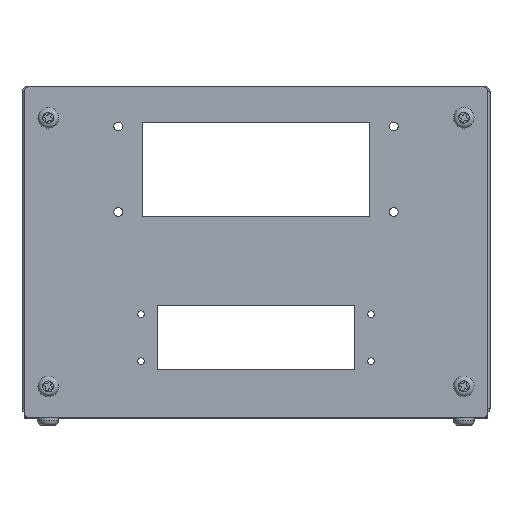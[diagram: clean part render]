
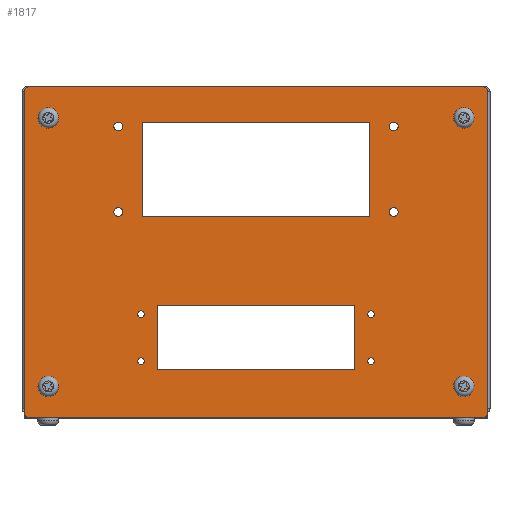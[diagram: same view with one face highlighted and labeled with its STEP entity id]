
A CAD part, top view. The second image highlights one B-rep face of the part: STEP entity #1817.
In plain terms, the highlighted planar face has unit normal (0, 0, 1).
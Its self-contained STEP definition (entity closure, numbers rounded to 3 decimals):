
#1170=FACE_BOUND('',#3671,.T.);
#1171=FACE_BOUND('',#3672,.T.);
#1172=FACE_BOUND('',#3673,.T.);
#1173=FACE_BOUND('',#3674,.T.);
#1174=FACE_BOUND('',#3675,.T.);
#1175=FACE_BOUND('',#3676,.T.);
#1176=FACE_BOUND('',#3677,.T.);
#1177=FACE_BOUND('',#3678,.T.);
#1178=FACE_BOUND('',#3679,.T.);
#1179=FACE_BOUND('',#3680,.T.);
#1180=FACE_BOUND('',#3681,.T.);
#1181=FACE_BOUND('',#3682,.T.);
#1182=FACE_BOUND('',#3683,.T.);
#1183=FACE_BOUND('',#3684,.T.);
#1184=FACE_BOUND('',#3685,.T.);
#1817=ADVANCED_FACE('',(#1170,#1171,#1172,#1173,#1174,#1175,#1176,#1177,
#1178,#1179,#1180,#1181,#1182,#1183,#1184),#2271,.F.);
#2271=PLANE('',#13586);
#3671=EDGE_LOOP('',(#6401));
#3672=EDGE_LOOP('',(#6402));
#3673=EDGE_LOOP('',(#6403));
#3674=EDGE_LOOP('',(#6404));
#3675=EDGE_LOOP('',(#6405,#6406,#6407,#6408,#6409,#6410,#6411,#6412));
#3676=EDGE_LOOP('',(#6413,#6414,#6415,#6416));
#3677=EDGE_LOOP('',(#6417));
#3678=EDGE_LOOP('',(#6418));
#3679=EDGE_LOOP('',(#6419));
#3680=EDGE_LOOP('',(#6420));
#3681=EDGE_LOOP('',(#6421));
#3682=EDGE_LOOP('',(#6422));
#3683=EDGE_LOOP('',(#6423));
#3684=EDGE_LOOP('',(#6424));
#3685=EDGE_LOOP('',(#6425,#6426,#6427,#6428));
#6401=ORIENTED_EDGE('',*,*,#9748,.T.);
#6402=ORIENTED_EDGE('',*,*,#9749,.F.);
#6403=ORIENTED_EDGE('',*,*,#9750,.F.);
#6404=ORIENTED_EDGE('',*,*,#9751,.T.);
#6405=ORIENTED_EDGE('',*,*,#9752,.T.);
#6406=ORIENTED_EDGE('',*,*,#9753,.T.);
#6407=ORIENTED_EDGE('',*,*,#9754,.T.);
#6408=ORIENTED_EDGE('',*,*,#9755,.T.);
#6409=ORIENTED_EDGE('',*,*,#9756,.T.);
#6410=ORIENTED_EDGE('',*,*,#9757,.T.);
#6411=ORIENTED_EDGE('',*,*,#9758,.T.);
#6412=ORIENTED_EDGE('',*,*,#9759,.T.);
#6413=ORIENTED_EDGE('',*,*,#9760,.F.);
#6414=ORIENTED_EDGE('',*,*,#9761,.F.);
#6415=ORIENTED_EDGE('',*,*,#9762,.F.);
#6416=ORIENTED_EDGE('',*,*,#9763,.F.);
#6417=ORIENTED_EDGE('',*,*,#9764,.T.);
#6418=ORIENTED_EDGE('',*,*,#9765,.T.);
#6419=ORIENTED_EDGE('',*,*,#9766,.T.);
#6420=ORIENTED_EDGE('',*,*,#9767,.F.);
#6421=ORIENTED_EDGE('',*,*,#9768,.F.);
#6422=ORIENTED_EDGE('',*,*,#9769,.T.);
#6423=ORIENTED_EDGE('',*,*,#9770,.F.);
#6424=ORIENTED_EDGE('',*,*,#9771,.F.);
#6425=ORIENTED_EDGE('',*,*,#9772,.T.);
#6426=ORIENTED_EDGE('',*,*,#9773,.T.);
#6427=ORIENTED_EDGE('',*,*,#9774,.T.);
#6428=ORIENTED_EDGE('',*,*,#9775,.T.);
#8187=VERTEX_POINT('',#21721);
#8188=VERTEX_POINT('',#21723);
#8189=VERTEX_POINT('',#21725);
#8190=VERTEX_POINT('',#21727);
#8191=VERTEX_POINT('',#21729);
#8192=VERTEX_POINT('',#21730);
#8193=VERTEX_POINT('',#21732);
#8194=VERTEX_POINT('',#21734);
#8195=VERTEX_POINT('',#21736);
#8196=VERTEX_POINT('',#21738);
#8197=VERTEX_POINT('',#21740);
#8198=VERTEX_POINT('',#21742);
#8199=VERTEX_POINT('',#21745);
#8200=VERTEX_POINT('',#21746);
#8201=VERTEX_POINT('',#21748);
#8202=VERTEX_POINT('',#21750);
#8203=VERTEX_POINT('',#21753);
#8204=VERTEX_POINT('',#21755);
#8205=VERTEX_POINT('',#21757);
#8206=VERTEX_POINT('',#21759);
#8207=VERTEX_POINT('',#21761);
#8208=VERTEX_POINT('',#21763);
#8209=VERTEX_POINT('',#21765);
#8210=VERTEX_POINT('',#21767);
#8211=VERTEX_POINT('',#21769);
#8212=VERTEX_POINT('',#21770);
#8213=VERTEX_POINT('',#21772);
#8214=VERTEX_POINT('',#21774);
#9748=EDGE_CURVE('',#8187,#8187,#12386,.T.);
#9749=EDGE_CURVE('',#8188,#8188,#12387,.T.);
#9750=EDGE_CURVE('',#8189,#8189,#12388,.T.);
#9751=EDGE_CURVE('',#8190,#8190,#12389,.T.);
#9752=EDGE_CURVE('',#8191,#8192,#10752,.T.);
#9753=EDGE_CURVE('',#8192,#8193,#12390,.T.);
#9754=EDGE_CURVE('',#8193,#8194,#10753,.T.);
#9755=EDGE_CURVE('',#8194,#8195,#12391,.T.);
#9756=EDGE_CURVE('',#8195,#8196,#10754,.T.);
#9757=EDGE_CURVE('',#8196,#8197,#12392,.T.);
#9758=EDGE_CURVE('',#8197,#8198,#10755,.T.);
#9759=EDGE_CURVE('',#8198,#8191,#12393,.T.);
#9760=EDGE_CURVE('',#8199,#8200,#10756,.T.);
#9761=EDGE_CURVE('',#8201,#8199,#10757,.T.);
#9762=EDGE_CURVE('',#8202,#8201,#10758,.T.);
#9763=EDGE_CURVE('',#8200,#8202,#10759,.T.);
#9764=EDGE_CURVE('',#8203,#8203,#12394,.T.);
#9765=EDGE_CURVE('',#8204,#8204,#12395,.T.);
#9766=EDGE_CURVE('',#8205,#8205,#12396,.T.);
#9767=EDGE_CURVE('',#8206,#8206,#12397,.T.);
#9768=EDGE_CURVE('',#8207,#8207,#12398,.T.);
#9769=EDGE_CURVE('',#8208,#8208,#12399,.T.);
#9770=EDGE_CURVE('',#8209,#8209,#12400,.T.);
#9771=EDGE_CURVE('',#8210,#8210,#12401,.T.);
#9772=EDGE_CURVE('',#8211,#8212,#10760,.T.);
#9773=EDGE_CURVE('',#8212,#8213,#10761,.T.);
#9774=EDGE_CURVE('',#8213,#8214,#10762,.T.);
#9775=EDGE_CURVE('',#8214,#8211,#10763,.T.);
#10752=LINE('',#21728,#11606);
#10753=LINE('',#21733,#11607);
#10754=LINE('',#21737,#11608);
#10755=LINE('',#21741,#11609);
#10756=LINE('',#21744,#11610);
#10757=LINE('',#21747,#11611);
#10758=LINE('',#21749,#11612);
#10759=LINE('',#21751,#11613);
#10760=LINE('',#21768,#11614);
#10761=LINE('',#21771,#11615);
#10762=LINE('',#21773,#11616);
#10763=LINE('',#21775,#11617);
#11606=VECTOR('',#16528,1.);
#11607=VECTOR('',#16531,1.);
#11608=VECTOR('',#16534,1.);
#11609=VECTOR('',#16537,1.);
#11610=VECTOR('',#16540,1.);
#11611=VECTOR('',#16541,1.);
#11612=VECTOR('',#16542,1.);
#11613=VECTOR('',#16543,1.);
#11614=VECTOR('',#16560,1.);
#11615=VECTOR('',#16561,1.);
#11616=VECTOR('',#16562,1.);
#11617=VECTOR('',#16563,1.);
#12386=CIRCLE('',#13570,1.25);
#12387=CIRCLE('',#13571,1.25);
#12388=CIRCLE('',#13572,1.25);
#12389=CIRCLE('',#13573,1.25);
#12390=CIRCLE('',#13574,2.);
#12391=CIRCLE('',#13575,2.);
#12392=CIRCLE('',#13576,2.);
#12393=CIRCLE('',#13577,2.);
#12394=CIRCLE('',#13578,2.5);
#12395=CIRCLE('',#13579,1.65);
#12396=CIRCLE('',#13580,1.65);
#12397=CIRCLE('',#13581,2.5);
#12398=CIRCLE('',#13582,2.5);
#12399=CIRCLE('',#13583,2.5);
#12400=CIRCLE('',#13584,1.65);
#12401=CIRCLE('',#13585,1.65);
#13570=AXIS2_PLACEMENT_3D('',#21720,#16520,#16521);
#13571=AXIS2_PLACEMENT_3D('',#21722,#16522,#16523);
#13572=AXIS2_PLACEMENT_3D('',#21724,#16524,#16525);
#13573=AXIS2_PLACEMENT_3D('',#21726,#16526,#16527);
#13574=AXIS2_PLACEMENT_3D('',#21731,#16529,#16530);
#13575=AXIS2_PLACEMENT_3D('',#21735,#16532,#16533);
#13576=AXIS2_PLACEMENT_3D('',#21739,#16535,#16536);
#13577=AXIS2_PLACEMENT_3D('',#21743,#16538,#16539);
#13578=AXIS2_PLACEMENT_3D('',#21752,#16544,#16545);
#13579=AXIS2_PLACEMENT_3D('',#21754,#16546,#16547);
#13580=AXIS2_PLACEMENT_3D('',#21756,#16548,#16549);
#13581=AXIS2_PLACEMENT_3D('',#21758,#16550,#16551);
#13582=AXIS2_PLACEMENT_3D('',#21760,#16552,#16553);
#13583=AXIS2_PLACEMENT_3D('',#21762,#16554,#16555);
#13584=AXIS2_PLACEMENT_3D('',#21764,#16556,#16557);
#13585=AXIS2_PLACEMENT_3D('',#21766,#16558,#16559);
#13586=AXIS2_PLACEMENT_3D('',#21776,#16564,#16565);
#16520=DIRECTION('',(0.,0.,-1.));
#16521=DIRECTION('',(1.,0.,0.));
#16522=DIRECTION('',(0.,0.,1.));
#16523=DIRECTION('',(1.,0.,0.));
#16524=DIRECTION('',(0.,0.,1.));
#16525=DIRECTION('',(-1.,0.,0.));
#16526=DIRECTION('',(0.,0.,-1.));
#16527=DIRECTION('',(-1.,0.,0.));
#16528=DIRECTION('',(1.,0.,0.));
#16529=DIRECTION('',(0.,0.,1.));
#16530=DIRECTION('',(-1.,0.,0.));
#16531=DIRECTION('',(0.,1.,0.));
#16532=DIRECTION('',(0.,0.,1.));
#16533=DIRECTION('',(-1.,0.,0.));
#16534=DIRECTION('',(-1.,0.,0.));
#16535=DIRECTION('',(0.,0.,1.));
#16536=DIRECTION('',(-1.,0.,0.));
#16537=DIRECTION('',(0.,-1.,0.));
#16538=DIRECTION('',(0.,0.,1.));
#16539=DIRECTION('',(-1.,0.,0.));
#16540=DIRECTION('',(1.,0.,0.));
#16541=DIRECTION('',(0.,-1.,0.));
#16542=DIRECTION('',(-1.,0.,0.));
#16543=DIRECTION('',(0.,1.,0.));
#16544=DIRECTION('',(0.,0.,-1.));
#16545=DIRECTION('',(-1.,0.,0.));
#16546=DIRECTION('',(0.,0.,-1.));
#16547=DIRECTION('',(-1.,0.,0.));
#16548=DIRECTION('',(0.,0.,-1.));
#16549=DIRECTION('',(-1.,0.,0.));
#16550=DIRECTION('',(0.,0.,1.));
#16551=DIRECTION('',(-1.,0.,0.));
#16552=DIRECTION('',(0.,0.,1.));
#16553=DIRECTION('',(1.,0.,0.));
#16554=DIRECTION('',(0.,0.,-1.));
#16555=DIRECTION('',(1.,0.,0.));
#16556=DIRECTION('',(0.,0.,1.));
#16557=DIRECTION('',(1.,0.,0.));
#16558=DIRECTION('',(0.,0.,1.));
#16559=DIRECTION('',(1.,0.,0.));
#16560=DIRECTION('',(0.,1.,0.));
#16561=DIRECTION('',(1.,0.,0.));
#16562=DIRECTION('',(0.,-1.,0.));
#16563=DIRECTION('',(-1.,0.,0.));
#16564=DIRECTION('',(0.,0.,-1.));
#16565=DIRECTION('',(-1.,0.,0.));
#21720=CARTESIAN_POINT('',(130.5,-102.8,64.5));
#21721=CARTESIAN_POINT('',(131.75,-102.8,64.5));
#21722=CARTESIAN_POINT('',(130.5,-85.2,64.5));
#21723=CARTESIAN_POINT('',(131.75,-85.2,64.5));
#21724=CARTESIAN_POINT('',(44.5,-102.8,64.5));
#21725=CARTESIAN_POINT('',(43.25,-102.8,64.5));
#21726=CARTESIAN_POINT('',(44.5,-85.2,64.5));
#21727=CARTESIAN_POINT('',(43.25,-85.2,64.5));
#21728=CARTESIAN_POINT('',(1.,-124.,64.5));
#21729=CARTESIAN_POINT('',(3.,-124.,64.5));
#21730=CARTESIAN_POINT('',(172.,-124.,64.5));
#21731=CARTESIAN_POINT('',(172.,-122.,64.5));
#21732=CARTESIAN_POINT('',(174.,-122.,64.5));
#21733=CARTESIAN_POINT('',(174.,-124.,64.5));
#21734=CARTESIAN_POINT('',(174.,-2.,64.5));
#21735=CARTESIAN_POINT('',(172.,-2.,64.5));
#21736=CARTESIAN_POINT('',(172.,0.,64.5));
#21737=CARTESIAN_POINT('',(174.,0.,64.5));
#21738=CARTESIAN_POINT('',(3.,0.,64.5));
#21739=CARTESIAN_POINT('',(3.,-2.,64.5));
#21740=CARTESIAN_POINT('',(1.,-2.,64.5));
#21741=CARTESIAN_POINT('',(1.,0.,64.5));
#21742=CARTESIAN_POINT('',(1.,-122.,64.5));
#21743=CARTESIAN_POINT('',(3.,-122.,64.5));
#21744=CARTESIAN_POINT('',(45.,-48.5,64.5));
#21745=CARTESIAN_POINT('',(45.,-48.5,64.5));
#21746=CARTESIAN_POINT('',(130.,-48.5,64.5));
#21747=CARTESIAN_POINT('',(45.,-13.5,64.5));
#21748=CARTESIAN_POINT('',(45.,-13.5,64.5));
#21749=CARTESIAN_POINT('',(130.,-13.5,64.5));
#21750=CARTESIAN_POINT('',(130.,-13.5,64.5));
#21751=CARTESIAN_POINT('',(130.,-48.5,64.5));
#21752=CARTESIAN_POINT('',(9.8,-112.2,64.5));
#21753=CARTESIAN_POINT('',(7.3,-112.2,64.5));
#21754=CARTESIAN_POINT('',(36.,-47.,64.5));
#21755=CARTESIAN_POINT('',(34.35,-47.,64.5));
#21756=CARTESIAN_POINT('',(36.,-15.,64.5));
#21757=CARTESIAN_POINT('',(34.35,-15.,64.5));
#21758=CARTESIAN_POINT('',(9.8,-11.8,64.5));
#21759=CARTESIAN_POINT('',(7.3,-11.8,64.5));
#21760=CARTESIAN_POINT('',(165.2,-112.2,64.5));
#21761=CARTESIAN_POINT('',(167.7,-112.2,64.5));
#21762=CARTESIAN_POINT('',(165.2,-11.8,64.5));
#21763=CARTESIAN_POINT('',(167.7,-11.8,64.5));
#21764=CARTESIAN_POINT('',(139.,-47.,64.5));
#21765=CARTESIAN_POINT('',(140.65,-47.,64.5));
#21766=CARTESIAN_POINT('',(139.,-15.,64.5));
#21767=CARTESIAN_POINT('',(140.65,-15.,64.5));
#21768=CARTESIAN_POINT('',(50.5,-106.,64.5));
#21769=CARTESIAN_POINT('',(50.5,-106.,64.5));
#21770=CARTESIAN_POINT('',(50.5,-82.,64.5));
#21771=CARTESIAN_POINT('',(50.5,-82.,64.5));
#21772=CARTESIAN_POINT('',(124.5,-82.,64.5));
#21773=CARTESIAN_POINT('',(124.5,-82.,64.5));
#21774=CARTESIAN_POINT('',(124.5,-106.,64.5));
#21775=CARTESIAN_POINT('',(124.5,-106.,64.5));
#21776=CARTESIAN_POINT('',(1.,-124.,64.5));
